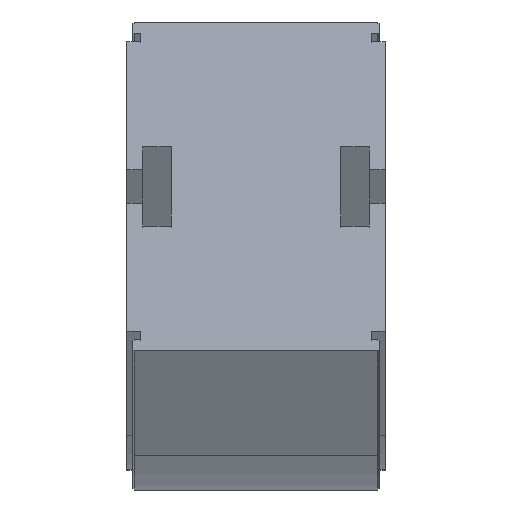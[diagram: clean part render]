
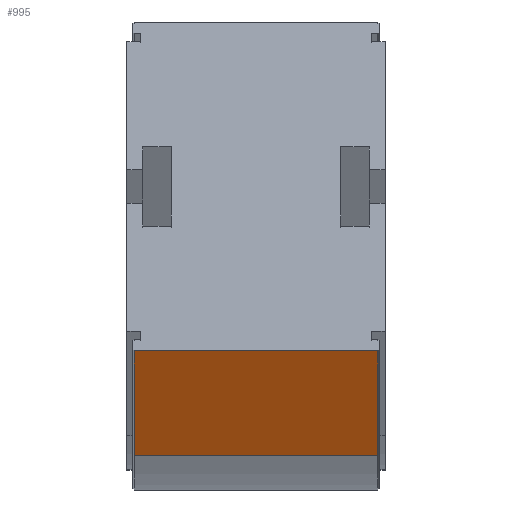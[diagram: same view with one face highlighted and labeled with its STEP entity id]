
A CAD part, top view. The second image highlights one B-rep face of the part: STEP entity #995.
In plain terms, the highlighted planar face has unit normal (0, -0.985, 0.174).
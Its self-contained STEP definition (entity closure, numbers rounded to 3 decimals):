
#55 = ORIENTED_EDGE ( 'NONE', *, *, #1790, .T. ) ;
#415 = CARTESIAN_POINT ( 'NONE',  ( -30.65, -7.719, 391.838 ) ) ;
#575 = ORIENTED_EDGE ( 'NONE', *, *, #2450, .F. ) ;
#599 = EDGE_CURVE ( 'NONE', #1673, #2012, #1862, .T. ) ;
#626 = LINE ( 'NONE', #1493, #695 ) ;
#695 = VECTOR ( 'NONE', #769, 1000. ) ;
#751 = EDGE_LOOP ( 'NONE', ( #2379, #1609, #55, #575 ) ) ;
#769 = DIRECTION ( 'NONE',  ( 0., 0.174, 0.985 ) ) ;
#852 = EDGE_CURVE ( 'NONE', #1673, #1751, #1858, .T. ) ;
#995 = ADVANCED_FACE ( 'NONE', ( #2221 ), #1313, .F. ) ;
#1117 = CARTESIAN_POINT ( 'NONE',  ( 30.65, -33.766, 244.117 ) ) ;
#1178 = LINE ( 'NONE', #415, #2192 ) ;
#1182 = DIRECTION ( 'NONE',  ( -1., 0., 0. ) ) ;
#1298 = DIRECTION ( 'NONE',  ( 0., 0.985, -0.174 ) ) ;
#1313 = PLANE ( 'NONE',  #1826 ) ;
#1320 = DIRECTION ( 'NONE',  ( 0., 0.174, 0.985 ) ) ;
#1389 = CARTESIAN_POINT ( 'NONE',  ( 30.65, -7.719, 391.838 ) ) ;
#1493 = CARTESIAN_POINT ( 'NONE',  ( -30.65, -33.766, 244.117 ) ) ;
#1609 = ORIENTED_EDGE ( 'NONE', *, *, #852, .T. ) ;
#1673 = VERTEX_POINT ( 'NONE', #1117 ) ;
#1751 = VERTEX_POINT ( 'NONE', #1389 ) ;
#1790 = EDGE_CURVE ( 'NONE', #1751, #2529, #1178, .T. ) ;
#1826 = AXIS2_PLACEMENT_3D ( 'NONE', #2751, #1298, #1320 ) ;
#1838 = DIRECTION ( 'NONE',  ( -1., 0., 0. ) ) ;
#1858 = LINE ( 'NONE', #2469, #2978 ) ;
#1862 = LINE ( 'NONE', #2753, #2298 ) ;
#2012 = VERTEX_POINT ( 'NONE', #2421 ) ;
#2192 = VECTOR ( 'NONE', #1182, 1000. ) ;
#2221 = FACE_OUTER_BOUND ( 'NONE', #751, .T. ) ;
#2298 = VECTOR ( 'NONE', #1838, 1000. ) ;
#2379 = ORIENTED_EDGE ( 'NONE', *, *, #599, .F. ) ;
#2421 = CARTESIAN_POINT ( 'NONE',  ( -30.65, -33.766, 244.117 ) ) ;
#2441 = DIRECTION ( 'NONE',  ( 0., 0.174, 0.985 ) ) ;
#2450 = EDGE_CURVE ( 'NONE', #2012, #2529, #626, .T. ) ;
#2469 = CARTESIAN_POINT ( 'NONE',  ( 30.65, -33.766, 244.117 ) ) ;
#2529 = VERTEX_POINT ( 'NONE', #2990 ) ;
#2751 = CARTESIAN_POINT ( 'NONE',  ( -30.65, -33.766, 244.117 ) ) ;
#2753 = CARTESIAN_POINT ( 'NONE',  ( -30.65, -33.766, 244.117 ) ) ;
#2978 = VECTOR ( 'NONE', #2441, 1000. ) ;
#2990 = CARTESIAN_POINT ( 'NONE',  ( -30.65, -7.719, 391.838 ) ) ;
